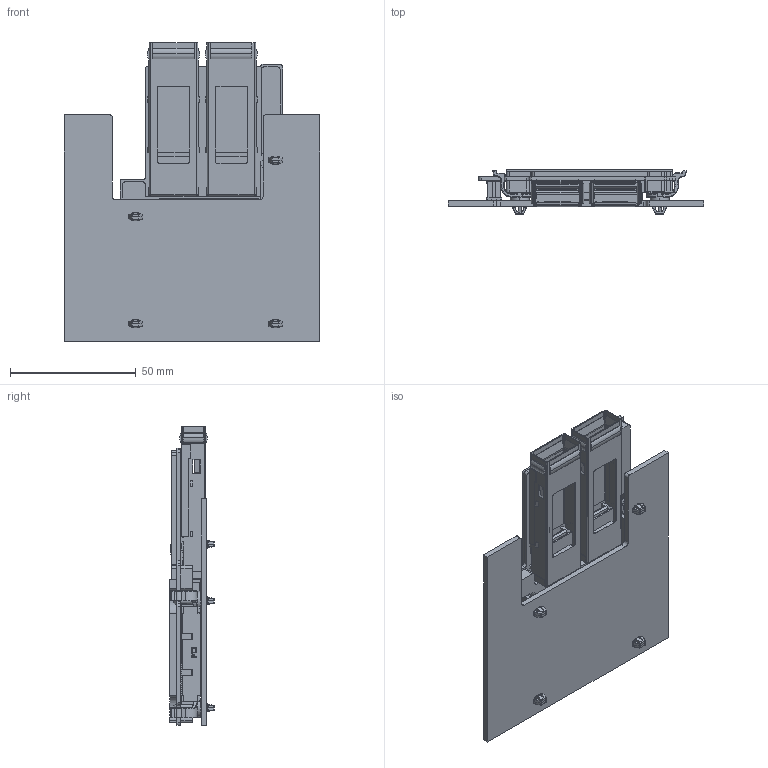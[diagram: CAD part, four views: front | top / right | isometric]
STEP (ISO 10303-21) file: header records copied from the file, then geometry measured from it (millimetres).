
FILE_DESCRIPTION((''),'2;1');
FILE_NAME('OCP-MZ-2_0-BD-ASSY_1X4SFP_8MM_ASM','2015-10-23T',('95030616'),(''),'PRO/ENGINEER BY PARAMETRIC TECHNOLOGY CORPORATION, 2013040','PRO/ENGINEER BY PARAMETRIC TECHNOLOGY CORPORATION, 2013040','');
FILE_SCHEMA(('AUTOMOTIVE_DESIGN { 1 0 10303 214 1 1 1 1 }'));
Products named in the file (21): OCP-2_0-BOARD_2; F01-LED-EVERLIGHT; FCI-P61083-124X2XXX_2; FCI_61083_084402LF_LEOPARD_E1; BTM-KEEPOUT-2MM; BTM-KEEPOUT-2_9MM; TOP-KEEPOUT-4_5MM; TOP-KEEPOUT-4_5MM-3; TOP-KEEPOUT-4MM; TOP-KEEPOUT-4MM-2; TOP-KEEPOUT-7_5MM; PORTION_MB_LEOPARD_E1_FILLED; FCI_61082_081402LF_LEOPARD_E1; CN120_GPN2_0-8_SMD_H_F-E1; 64POS-REC1; ASSY_PORTION_MB_LEOPARD_E1_ASM__ASM; F06-MEZZ-LATCH-LEFT-8MM; F06-MEZZ-LATCH-RIGHT-8MM; M-U95-T111-1001-REVT1; M-FS1-Z38-X0Z6-10-REVG1; OCP-MZ-2_0-BD-ASSY_1X4SFP_8MM_ASM
Assembly tree (27 placements, depth 3):
  OCP-MZ-2_0-BD-ASSY_1X4SFP_8MM_ASM
    OCP-2_0-BOARD_2
    F01-LED-EVERLIGHT  x4
    FCI-P61083-124X2XXX_2
    FCI_61083_084402LF_LEOPARD_E1
    BTM-KEEPOUT-2MM
    BTM-KEEPOUT-2_9MM
    TOP-KEEPOUT-4_5MM
    TOP-KEEPOUT-4_5MM-3
    TOP-KEEPOUT-4MM
    TOP-KEEPOUT-4MM-2
    TOP-KEEPOUT-7_5MM
    ASSY_PORTION_MB_LEOPARD_E1_ASM__ASM
      PORTION_MB_LEOPARD_E1_FILLED
      FCI_61082_081402LF_LEOPARD_E1
      CN120_GPN2_0-8_SMD_H_F-E1
      64POS-REC1
    F06-MEZZ-LATCH-LEFT-8MM
    F06-MEZZ-LATCH-RIGHT-8MM  x3
    M-U95-T111-1001-REVT1  x2
    M-FS1-Z38-X0Z6-10-REVG1  x2
Bounding box: 101.72 x 17.77 x 118.74 mm (x, y, z)
Volume: 83489.1 mm3; surface area: 85114.5 mm2
Topology: 26 solids, 26 shells, 9221 faces, 25413 edges, 16007 vertices
Faces by surface type: plane 7681, cylinder 887, bspline 359, cone 134, sphere 128, torus 32
Entity records: 298448 total; most frequent: CARTESIAN_POINT 54831, ORIENTED_EDGE 43548, DIRECTION 37606, EDGE_CURVE 21774, VECTOR 20166, LINE 20166, VERTEX_POINT 13763, PRESENTATION_STYLE_ASSIGNMENT 12155
